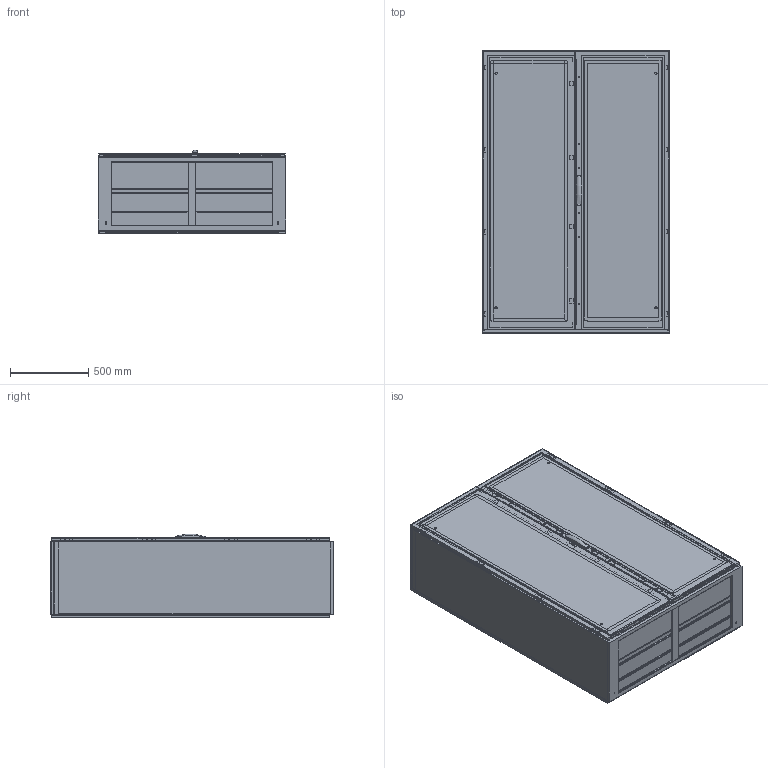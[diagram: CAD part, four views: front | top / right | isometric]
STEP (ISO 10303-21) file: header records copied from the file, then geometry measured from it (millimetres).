
FILE_DESCRIPTION(/* description */ ('STEP AP203'),/* implementation_level */ '2;1');
FILE_NAME(/* name */ 'MKD18125R5(0)',/* time_stamp */ '2024-02-23T10:10:51+01:00',/* author */ ('License CC BY-ND 4.0'),/* organization */ ('CADENAS'),/* preprocessor_version */ 'ST-DEVELOPER v19.3',/* originating_system */ 'PARTsolutions',/* authorisation */ ' ');
FILE_SCHEMA (('CONFIG_CONTROL_DESIGN'));
Length unit declared in the file: millimetre
Products named in the file (26): MKD18125R5(0); MKD18125R5(0)_Frame; CRPK12(0)_Rear Panel Mounting Kit; CRP1812R5(0)_Rear Panel; CRPK12(0)_Rear Panel Bracket; DNMK02(0)_Hinge Right; DN1806RR5(0)_Right door; LSSDXXXX(0)_Lock; LSSD1800(0)_Espagnolette Top; LSSD1800(0)_Espagnolette Bottom; DNMK02(0)_Hinge Left; DN1806LR5(0)_Left door; LSEL1800(0)_Left Door Espagnolette; DNMK01(0)_Rod catches; MPA06(0)_Mounting Plate Brackets 1; MP1812(0)_P1; MPA06(0)_Mounting Plate Brackets 2; MPA06(0)_Mounting Plate Brackets 3; MPA06(0)_Mounting Plate Brackets 4; CCR125R5(0)_MKD Roof plate; Bottom Plate Profile_1200x500(0); CBPW1200D200(0)_Bottom Plate 3; CBP120(0)_Bottom Plate 1; CBP120(0)_Bottom Plate 2; LSSD1800(0)_Lock Catch; LSELXX12X(0)_Left Door Espagnolette
Assembly tree (47 placements, depth 2):
  MKD18125R5(0)
    MKD18125R5(0)_Frame
    CRPK12(0)_Rear Panel Mounting Kit  x8
    CRP1812R5(0)_Rear Panel
    CRPK12(0)_Rear Panel Bracket  x2
    DNMK02(0)_Hinge Right  x4
    DN1806RR5(0)_Right door
    LSSDXXXX(0)_Lock
    LSSD1800(0)_Espagnolette Top
    LSSD1800(0)_Espagnolette Bottom
    DNMK02(0)_Hinge Left  x4
    DN1806LR5(0)_Left door
    LSEL1800(0)_Left Door Espagnolette
    DNMK01(0)_Rod catches  x4
    MPA06(0)_Mounting Plate Brackets 1
    MP1812(0)_P1
    MPA06(0)_Mounting Plate Brackets 2
    MPA06(0)_Mounting Plate Brackets 3
    MPA06(0)_Mounting Plate Brackets 4
    CCR125R5(0)_MKD Roof plate
    Bottom Plate Profile_1200x500(0)
    CBPW1200D200(0)_Bottom Plate 3  x2
    CBP120(0)_Bottom Plate 1  x2
    CBP120(0)_Bottom Plate 2  x2
    LSSD1800(0)_Lock Catch  x2
    LSELXX12X(0)_Left Door Espagnolette  x2
Bounding box: 1200 x 1805 x 534.9 mm (x, y, z)
Volume: 35322894.2 mm3; surface area: 22312147.5 mm2
Topology: 47 solids, 47 shells, 2172 faces, 5837 edges, 3855 vertices
Faces by surface type: plane 1908, cylinder 195, cone 66, sphere 2, torus 1
Full cylindrical faces by diameter (mm): 2.55 x2, 5 x26, 5.2 x2, 5.8 x2, 6 x6, 6.5 x2, 7 x6, 7.4 x4, 8 x22, 9 x2, 10 x12, 12.5 x1, 13 x3, 14 x6, 14.12 x1, 15 x4
Entity records: 49723 total; most frequent: CARTESIAN_POINT 8489, ORIENTED_EDGE 8052, DIRECTION 7617, EDGE_CURVE 4026, LINE 3609, VECTOR 3609, VERTEX_POINT 2726, AXIS2_PLACEMENT_3D 2004
